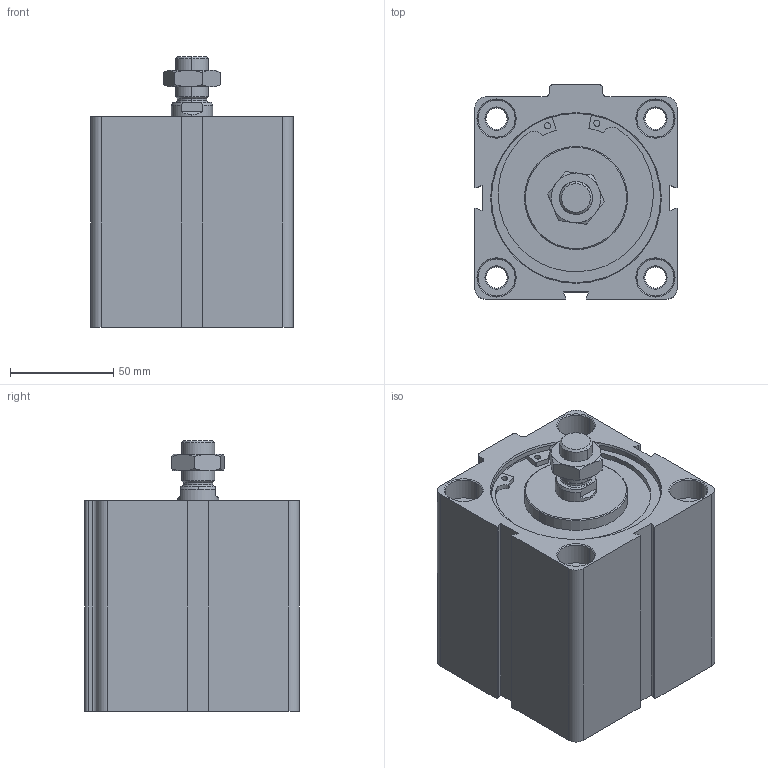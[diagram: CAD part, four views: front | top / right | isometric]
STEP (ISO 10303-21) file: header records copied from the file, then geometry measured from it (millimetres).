
FILE_DESCRIPTION (( 'STEP AP214' ), '1' );
FILE_NAME ('WSAC-080-0050-ML (3D).STEP', '2021-12-14T13:50:18', ( '' ), ( '' ), 'SwSTEP 2.0', 'SolidWorks 2016', '' );
FILE_SCHEMA (( 'AUTOMOTIVE_DESIGN' ));
Length unit declared in the file: millimetre
Products named in the file (4): WSAC-080-0050-ML (3D); Group1^WSAC-080-0050-ML (3D); Group2^WSAC-080-0050-ML (3D); Group3^WSAC-080-0050-ML (3D)
Assembly tree (3 placements, depth 2):
  WSAC-080-0050-ML (3D)
    Group1^WSAC-080-0050-ML (3D)
    Group2^WSAC-080-0050-ML (3D)
    Group3^WSAC-080-0050-ML (3D)
Bounding box: 98 x 104 x 131.07 mm (x, y, z)
Volume: 667429.2 mm3; surface area: 144427.4 mm2
Topology: 7 solids, 7 shells, 517 faces, 1294 edges, 842 vertices
Faces by surface type: plane 249, cylinder 106, bspline 103, cone 59
Entity records: 23708 total; most frequent: CARTESIAN_POINT 9147, ORIENTED_EDGE 2588, DIRECTION 2168, EDGE_CURVE 1294, VERTEX_POINT 842, VECTOR 788, LINE 788, AXIS2_PLACEMENT_3D 690
